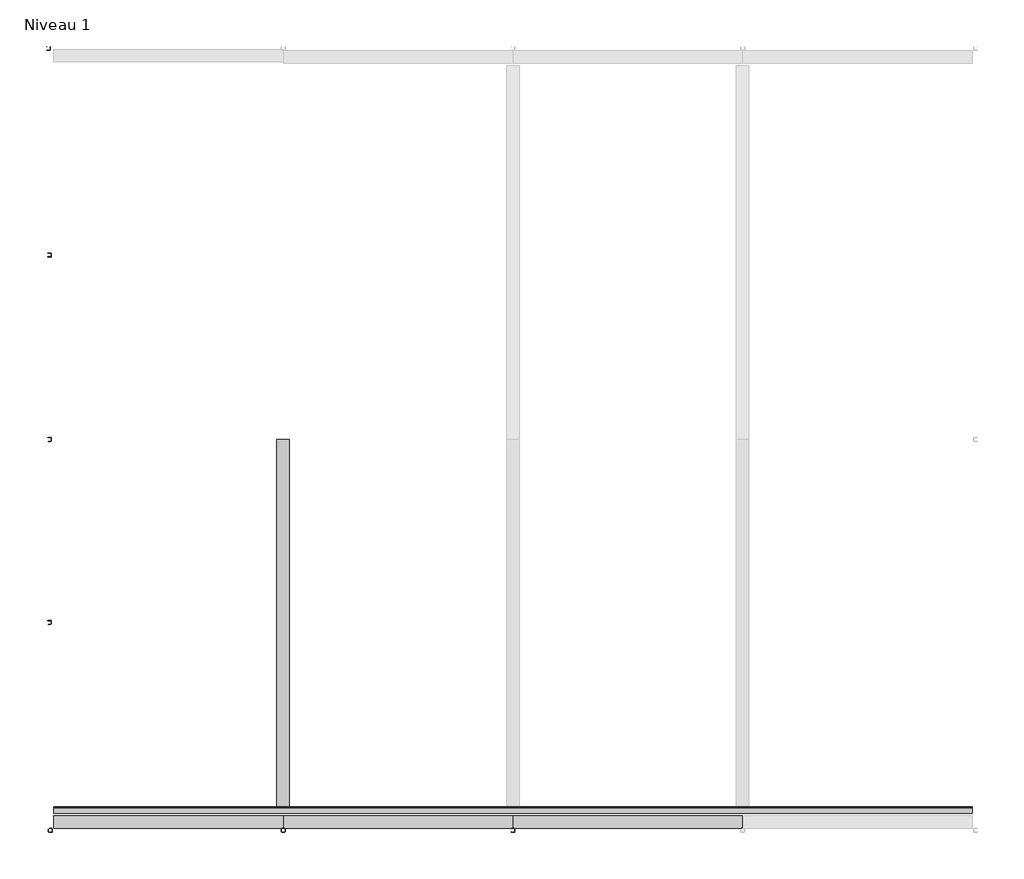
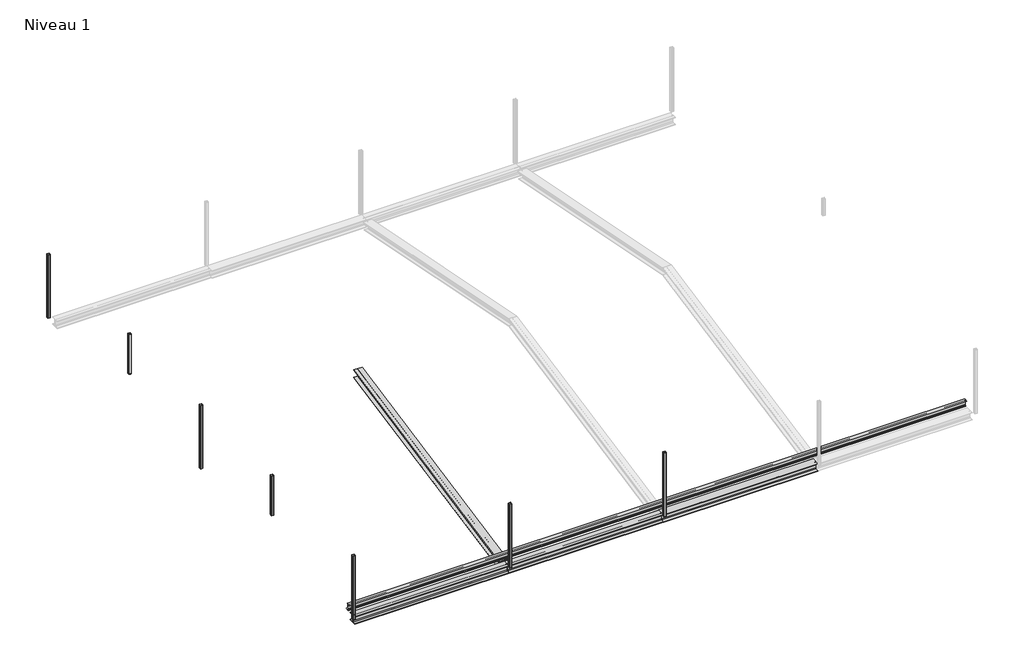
# One storey, part 1 of 2: 7 columns, 5 beams.
"""IFC4 building model written with IfcOpenShell, lengths in millimetres."""

from ifc_helpers import new_model, si_unit, frame, origin, place, context, project, spatial, polyline, circle_curve, ellipse_curve, transform, mapped, element, save
from ifc_brep_helpers import plane_surface, cylinder_surface, revolved_surface, advanced_brep
from components import hea160_fb2920ae, hea160_7110fd5d, ipe_ipe120_91d9e594, poteau_shs_en_10210_2_shs50x5_0b2d64e4

model = new_model("IFC4")

# Units and contexts
model_context = context("Model", 3, world=origin())
ifc_project = project(units=[si_unit("LENGTHUNIT", "METRE", prefix="MILLI")], contexts=[model_context])

# Site, building, storey
site = spatial("IfcSite", under=ifc_project)
building = spatial("IfcBuilding", under=site)
storey = spatial("IfcBuildingStorey", under=building, Name="Niveau 1", Elevation=3000.0)

# Beams
placement = place(None, origin())
element("IfcBeam", 1, ObjectType="HE-A : HEA160", at=placement, inside=storey, context=model_context, shape_type="AdvancedBrep", body=[
    advanced_brep(
    [(-13317.1291149, 1063.1731168, 2856.3099456), (-13317.1291149, 1064.9381621, 2847.4847195), (-13157.1291149, 1064.9381621, 2847.4847195), (-13157.1291149, 1063.1731168, 2856.3099456), (-13219.1291149, 1063.1731168, 2856.3099456), (-13234.1291149, 1060.2313748, 2871.0186558), (-13234.1291149, 1039.8352968, 2972.999046), (-13219.1291149, 1036.8935547, 2987.7077562), (-13157.1291149, 1036.8935547, 2987.7077562), (-13157.1291149, 1035.1285095, 2996.5329822), (-13317.1291149, 1035.1285095, 2996.5329822), (-13317.1291149, 1036.8935547, 2987.7077562), (-13255.1291149, 1036.8935547, 2987.7077562), (-13240.1291149, 1039.8352968, 2972.999046), (-13240.1291149, 1060.2313748, 2871.0186558), (-13255.1291149, 1063.1731168, 2856.3099456), (-13255.1291149, 5917.4635983, 3827.1680419), (-13317.1291149, 5917.4635983, 3827.1680419), (-13240.1291149, 5917.4635983, 3842.4651005), (-13240.1291149, 5917.4635983, 3948.5247063), (-13255.1291149, 5917.4635983, 3963.8217649), (-13317.1291149, 5917.4635983, 3963.8217649), (-13317.1291149, 5917.4635983, 3973.0), (-13157.1291149, 5917.4635983, 3973.0), (-13157.1291149, 5917.4635983, 3963.8217649), (-13219.1291149, 5917.4635983, 3963.8217649), (-13234.1291149, 5917.4635983, 3948.5247063), (-13234.1291149, 5917.4635983, 3842.4651005), (-13219.1291149, 5917.4635983, 3827.1680419), (-13157.1291149, 5917.4635983, 3827.1680419), (-13157.1291149, 5917.4635983, 3817.9898068), (-13317.1291149, 5917.4635983, 3817.9898068)],
    [
        (0, 1),
        (1, 2),
        (2, 3),
        (3, 4),
        (4, 5, circle_curve(frame((-13219.1291149, 1060.2313748, 2871.0186558), z_axis=(0.0, 0.9805806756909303, 0.19611613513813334), x_axis=(1.0, 0.0, 0.0)), 15.0)),
        (5, 6),
        (6, 7, circle_curve(frame((-13219.1291149, 1039.8352968, 2972.999046), z_axis=(0.0, 0.9805806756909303, 0.19611613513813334), x_axis=(1.0, 0.0, 0.0)), 15.0)),
        (7, 8),
        (8, 9),
        (9, 10),
        (10, 11),
        (11, 12),
        (12, 13, circle_curve(frame((-13255.1291149, 1039.8352968, 2972.999046), z_axis=(0.0, 0.9805806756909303, 0.19611613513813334), x_axis=(1.0, 0.0, 0.0)), 15.0)),
        (13, 14),
        (14, 15, circle_curve(frame((-13255.1291149, 1060.2313748, 2871.0186558), z_axis=(0.0, 0.9805806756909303, 0.19611613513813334), x_axis=(1.0, 0.0, 0.0)), 15.0)),
        (15, 0),
        (16, 17),
        (17, 0),
        (15, 16),
        (18, 16, ellipse_curve(frame((-13255.1291149, 5917.4635983, 3842.4651005), z_axis=(0.0, 1.0, 0.0), x_axis=(0.0, 0.0, -0.9999999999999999)), 15.2970585, 15.0)),
        (14, 18),
        (19, 18),
        (13, 19),
        (20, 19, ellipse_curve(frame((-13255.1291149, 5917.4635983, 3948.5247063), z_axis=(0.0, 1.0, 0.0), x_axis=(0.0, 0.0, -0.9999999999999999)), 15.2970585, 15.0)),
        (12, 20),
        (21, 20),
        (11, 21),
        (22, 21),
        (10, 22),
        (23, 22),
        (9, 23),
        (24, 23),
        (8, 24),
        (25, 24),
        (7, 25),
        (26, 25, ellipse_curve(frame((-13219.1291149, 5917.4635983, 3948.5247063), z_axis=(0.0, 1.0, 0.0), x_axis=(0.0, 0.0, -0.9999999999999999)), 15.2970585, 15.0)),
        (6, 26),
        (27, 26),
        (5, 27),
        (28, 27, ellipse_curve(frame((-13219.1291149, 5917.4635983, 3842.4651005), z_axis=(0.0, 1.0, 0.0), x_axis=(0.0, 0.0, -0.9999999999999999)), 15.2970585, 15.0)),
        (4, 28),
        (29, 28),
        (3, 29),
        (30, 29),
        (2, 30),
        (31, 30),
        (1, 31),
        (17, 31),
    ],
    [
        plane_surface(frame((-13237.1291149, 1050.0333358, 2922.0088509), z_axis=(0.0, -0.9805806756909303, -0.19611613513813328), x_axis=(0.0, -0.19611613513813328, 0.9805806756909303))),
        plane_surface(frame((-13317.1291149, 5941.967624, 3832.068847), z_axis=(0.0, -0.19611613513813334, 0.9805806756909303), x_axis=(0.0, -0.9805806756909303, -0.19611613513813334))),
        revolved_surface(polyline([(-13240.1291149, 1060.2313747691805, 2871.0186557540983), (-13240.1291149, 5920.405340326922, 3843.0534488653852)]), (-13255.1291149, 5939.025882, 3846.7775572), (0.0, -0.9805806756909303, -0.19611613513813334)),
        plane_surface(frame((-13240.1291149, 5939.025882, 3846.7775572), z_axis=(-1.0, 0.0, 0.0), x_axis=(0.0, -0.9805806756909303, -0.19611613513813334))),
        revolved_surface(polyline([(-13240.1291149, 1039.835296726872, 2972.9990460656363), (-13240.1291149, 5920.405340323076, 3949.1130547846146)]), (-13255.1291149, 5918.6298039, 3948.7579475), (0.0, -0.9805806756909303, -0.19611613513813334)),
        plane_surface(frame((-13255.1291149, 5915.6880619, 3963.4666576), z_axis=(0.0, 0.19611613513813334, -0.9805806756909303), x_axis=(0.0, -0.9805806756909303, -0.19611613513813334))),
        plane_surface(frame((-13317.1291149, 5915.6880619, 3963.4666576), z_axis=(-1.0, 0.0, 0.0), x_axis=(0.0, -0.9805806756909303, -0.19611613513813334))),
        plane_surface(frame((-13317.1291149, 5913.9230167, 3972.2918837), z_axis=(0.0, -0.19611613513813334, 0.9805806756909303), x_axis=(0.0, -0.9805806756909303, -0.19611613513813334))),
        plane_surface(frame((-13157.1291149, 5913.9230167, 3972.2918837), z_axis=(1.0, 0.0, 0.0), x_axis=(0.0, -0.9805806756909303, -0.19611613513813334))),
        plane_surface(frame((-13157.1291149, 5915.6880619, 3963.4666576), z_axis=(0.0, 0.19611613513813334, -0.9805806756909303), x_axis=(0.0, -0.9805806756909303, -0.19611613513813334))),
        revolved_surface(polyline([(-13204.1291149, 1039.835296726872, 2972.9990460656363), (-13204.1291149, 5920.405340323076, 3949.1130547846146)]), (-13219.1291149, 5918.6298039, 3948.7579475), (0.0, -0.9805806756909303, -0.19611613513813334)),
        plane_surface(frame((-13234.1291149, 5918.6298039, 3948.7579475), z_axis=(1.0, 0.0, 0.0), x_axis=(0.0, -0.9805806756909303, -0.19611613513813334))),
        revolved_surface(polyline([(-13204.1291149, 1060.2313747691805, 2871.0186557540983), (-13204.1291149, 5920.405340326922, 3843.0534488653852)]), (-13219.1291149, 5939.025882, 3846.7775572), (0.0, -0.9805806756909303, -0.19611613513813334)),
        plane_surface(frame((-13219.1291149, 5941.967624, 3832.068847), z_axis=(0.0, -0.19611613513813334, 0.9805806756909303), x_axis=(0.0, -0.9805806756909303, -0.19611613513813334))),
        plane_surface(frame((-13157.1291149, 5941.967624, 3832.068847), z_axis=(1.0, 0.0, 0.0), x_axis=(0.0, -0.9805806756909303, -0.19611613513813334))),
        plane_surface(frame((-13157.1291149, 5943.7326692, 3823.243621), z_axis=(0.0, 0.19611613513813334, -0.9805806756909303), x_axis=(0.0, -0.9805806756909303, -0.19611613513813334))),
        plane_surface(frame((-13317.1291149, 5943.7326692, 3823.243621), z_axis=(-1.0, 0.0, 0.0), x_axis=(0.0, -0.9805806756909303, -0.19611613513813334))),
        plane_surface(frame((-13237.1291149, 5917.4635983, 3817.9898068), z_axis=(0.0, 1.0, 0.0), x_axis=(0.0, 0.0, -1.0))),
    ],
    [
        (0, [[1, 2, 3, 4, 5, 6, 7, 8, 9, 10, 11, 12, 13, 14, 15, 16]]),
        (1, [[17, 18, -16, 19]]),
        (2, [[20, -19, -15, 21]]),
        (3, [[22, -21, -14, 23]]),
        (4, [[24, -23, -13, 25]]),
        (5, [[26, -25, -12, 27]]),
        (6, [[28, -27, -11, 29]]),
        (7, [[30, -29, -10, 31]]),
        (8, [[32, -31, -9, 33]]),
        (9, [[34, -33, -8, 35]]),
        (10, [[36, -35, -7, 37]]),
        (11, [[38, -37, -6, 39]]),
        (12, [[40, -39, -5, 41]]),
        (13, [[42, -41, -4, 43]]),
        (14, [[44, -43, -3, 45]]),
        (15, [[46, -45, -2, 47]]),
        (16, [[48, -47, -1, -18]]),
        (17, [[-17, -20, -22, -24, -26, -28, -30, -32, -34, -36, -38, -40, -42, -44, -46, -48]]),
    ],
),
])
hea160_shape = hea160_fb2920ae(model_context)
element("IfcBeam", 2, ObjectType="HE-A : HEA160", at=placement, inside=storey, context=model_context, shape_type="MappedRepresentation", body=[
    mapped(hea160_shape, transform((-14709.7291149, 917.4635983, 2924.0), x_axis=(1.0, 0.0, 0.0), y_axis=(0.0, 1.0, 0.0), z_axis=(0.0, 0.0, 1.0))),
])
element("IfcBeam", 3, ObjectType="HE-A : HEA160", at=placement, inside=storey, context=model_context, shape_type="MappedRepresentation", body=[
    mapped(hea160_shape, transform((-8709.7291149, 917.4635983, 2924.0), x_axis=(1.0, 0.0, 0.0), y_axis=(0.0, 1.0, 0.0), z_axis=(0.0, 0.0, 1.0))),
])
hea160_2_shape = hea160_7110fd5d(model_context)
element("IfcBeam", 4, ObjectType="HE-A : HEA160", at=placement, inside=storey, context=model_context, shape_type="MappedRepresentation", body=[
    mapped(hea160_2_shape, transform((-11713.0291149, 917.4635983, 2924.0), x_axis=(1.0, 0.0, 0.0), y_axis=(0.0, 1.0, 0.0), z_axis=(0.0, 0.0, 1.0))),
])
ipe_ipe120_shape = ipe_ipe120_91d9e594(model_context)
element("IfcBeam", 5, ObjectType="IPE : IPE120", at=placement, inside=storey, context=model_context, shape_type="MappedRepresentation", body=[
    mapped(ipe_ipe120_shape, transform((-10233.8291149, 1074.3756411, 3065.5706427), x_axis=(1.0, 0.0, 0.0), y_axis=(0.0, 0.9805806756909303, 0.19611613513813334), z_axis=(0.0, -0.19611613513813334, 0.9805806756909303))),
])

# Columns
element("IfcColumn", 6, ObjectType="Poteau SHS (EN 10210-2) : SHS50x5", at=placement, inside=storey, context=model_context, shape_type="AdvancedBrep", body=[
    advanced_brep(
    [(-16306.3291149, 3552.4990874, 3490.0070978), (-16271.3291149, 3552.4990874, 3490.0070978), (-16264.6395762, 3548.390263, 3490.0070978), (-16313.0186536, 3548.390263, 3490.0070978), (-16271.3291149, 3552.4990874, 3490.8288627), (-16306.3291149, 3552.4990874, 3490.8288627)],
    [
        (0, 1),
        (1, 2, circle_curve(frame((-16271.3291149, 3544.9990874, 3490.0070978), z_axis=(0.0, 0.0, -1.0), x_axis=(1.0, 0.0, 0.0)), 7.5)),
        (2, 3),
        (3, 0, circle_curve(frame((-16306.3291149, 3544.9990874, 3490.0070978), z_axis=(0.0, 0.0, -1.0), x_axis=(1.0, 0.0, 0.0)), 7.5)),
        (1, 4),
        (4, 2, ellipse_curve(frame((-16271.3291149, 3544.9990874, 3489.3288627), z_axis=(0.0, 0.19611613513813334, -0.9805806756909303), x_axis=(0.0, 0.9805806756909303, 0.19611613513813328)), 7.6485293, 7.5)),
        (3, 5, ellipse_curve(frame((-16306.3291149, 3544.9990874, 3489.3288627), z_axis=(0.0, 0.19611613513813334, -0.9805806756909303), x_axis=(0.0, 0.9805806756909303, 0.19611613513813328)), 7.6485293, 7.5)),
        (5, 0),
        (4, 5),
    ],
    [
        plane_surface(frame((-16306.3291149, 3552.4990874, 3490.0070978), z_axis=(0.0, 0.0, -1.0), x_axis=(1.0, 0.0, 0.0))),
        cylinder_surface(frame((-16271.3291149, 3544.9990874, 3490.0070978), z_axis=(0.0, 0.0, 1.0), x_axis=(1.0, 0.0, 0.0)), 7.5),
        cylinder_surface(frame((-16306.3291149, 3544.9990874, 3490.0070978), z_axis=(0.0, 0.0, 1.0), x_axis=(1.0, 0.0, 0.0)), 7.5),
        plane_surface(frame((-16251.8291149, 5851.9369047, 3950.7164261), z_axis=(0.0, -0.19611613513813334, 0.9805806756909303), x_axis=(0.0, -0.9805806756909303, -0.19611613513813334))),
        plane_surface(frame((-16271.3291149, 3552.4990874, 4300.0), z_axis=(0.0, 1.0, 0.0), x_axis=(0.0, 0.0, -1.0))),
    ],
    [
        (0, [[1, 2, 3, 4]]),
        (1, [[-2, 5, 6]]),
        (2, [[-4, 7, 8]]),
        (3, [[-3, -6, 9, -7]]),
        (4, [[-1, -8, -9, -5]]),
    ],
),
    advanced_brep(
    [(-16263.8291149, 3544.9990874, 4300.0), (-16263.8291149, 3509.9990874, 4300.0), (-16263.8291149, 3509.9990874, 3491.5070978), (-16263.8291149, 3544.9990874, 3498.5070978), (-16271.3291149, 3502.4990874, 4300.0), (-16271.3291149, 3502.4990874, 3490.0070978), (-16306.3291149, 3502.4990874, 4300.0), (-16306.3291149, 3502.4990874, 3490.0070978), (-16313.8291149, 3509.9990874, 4300.0), (-16313.8291149, 3509.9990874, 3491.5070978), (-16313.8291149, 3544.9990874, 4300.0), (-16313.8291149, 3544.9990874, 3498.5070978), (-16306.3291149, 3552.4990874, 4300.0), (-16271.3291149, 3552.4990874, 4300.0), (-16271.3291149, 3552.4990874, 3500.0070978), (-16306.3291149, 3552.4990874, 3500.0070978), (-16273.8291149, 3547.4990874, 4300.0), (-16303.8291149, 3547.4990874, 4300.0), (-16303.8291149, 3547.4990874, 3499.0070978), (-16273.8291149, 3547.4990874, 3499.0070978), (-16308.8291149, 3542.4990874, 4300.0), (-16308.8291149, 3542.4990874, 3498.0070978), (-16308.8291149, 3512.4990874, 4300.0), (-16308.8291149, 3512.4990874, 3492.0070978), (-16303.8291149, 3507.4990874, 4300.0), (-16303.8291149, 3507.4990874, 3491.0070978), (-16273.8291149, 3507.4990874, 4300.0), (-16273.8291149, 3507.4990874, 3491.0070978), (-16268.8291149, 3512.4990874, 4300.0), (-16268.8291149, 3512.4990874, 3492.0070978), (-16268.8291149, 3542.4990874, 4300.0), (-16268.8291149, 3542.4990874, 3498.0070978)],
    [
        (0, 1),
        (1, 2),
        (2, 3),
        (3, 0),
        (1, 4, circle_curve(frame((-16271.3291149, 3509.9990874, 4300.0), z_axis=(0.0, 0.0, -1.0), x_axis=(1.0, 0.0, 0.0)), 7.5)),
        (4, 5),
        (5, 2, ellipse_curve(frame((-16271.3291149, 3509.9990874, 3491.5070978), z_axis=(0.0, -0.19611613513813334, 0.9805806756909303), x_axis=(0.0, 0.9805806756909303, 0.19611613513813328)), 7.6485293, 7.5)),
        (4, 6),
        (6, 7),
        (7, 5),
        (6, 8, circle_curve(frame((-16306.3291149, 3509.9990874, 4300.0), z_axis=(0.0, 0.0, -1.0), x_axis=(1.0, 0.0, 0.0)), 7.5)),
        (8, 9),
        (9, 7, ellipse_curve(frame((-16306.3291149, 3509.9990874, 3491.5070978), z_axis=(0.0, -0.19611613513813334, 0.9805806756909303), x_axis=(0.0, 0.9805806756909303, 0.19611613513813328)), 7.6485293, 7.5)),
        (8, 10),
        (10, 11),
        (11, 9),
        (12, 13),
        (13, 14),
        (14, 15),
        (15, 12),
        (16, 17),
        (17, 18),
        (18, 19),
        (19, 16),
        (17, 20, circle_curve(frame((-16303.8291149, 3542.4990874, 4300.0), z_axis=(0.0, 0.0, 1.0), x_axis=(1.0, 0.0, 0.0)), 5.0)),
        (20, 21),
        (21, 18, ellipse_curve(frame((-16303.8291149, 3542.4990874, 3498.0070978), z_axis=(0.0, 0.19611613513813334, -0.9805806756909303), x_axis=(0.0, -0.9805806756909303, -0.19611613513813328)), 5.0990195, 5.0)),
        (20, 22),
        (22, 23),
        (23, 21),
        (22, 24, circle_curve(frame((-16303.8291149, 3512.4990874, 4300.0), z_axis=(0.0, 0.0, 1.0), x_axis=(1.0, 0.0, 0.0)), 5.0)),
        (24, 25),
        (25, 23, ellipse_curve(frame((-16303.8291149, 3512.4990874, 3492.0070978), z_axis=(0.0, 0.19611613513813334, -0.9805806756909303), x_axis=(0.0, -0.9805806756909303, -0.19611613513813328)), 5.0990195, 5.0)),
        (24, 26),
        (26, 27),
        (27, 25),
        (26, 28, circle_curve(frame((-16273.8291149, 3512.4990874, 4300.0), z_axis=(0.0, 0.0, 1.0), x_axis=(1.0, 0.0, 0.0)), 5.0)),
        (28, 29),
        (29, 27, ellipse_curve(frame((-16273.8291149, 3512.4990874, 3492.0070978), z_axis=(0.0, 0.19611613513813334, -0.9805806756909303), x_axis=(0.0, -0.9805806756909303, -0.19611613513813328)), 5.0990195, 5.0)),
        (28, 30),
        (30, 31),
        (31, 29),
        (30, 16, circle_curve(frame((-16273.8291149, 3542.4990874, 4300.0), z_axis=(0.0, 0.0, 1.0), x_axis=(1.0, 0.0, 0.0)), 5.0)),
        (19, 31, ellipse_curve(frame((-16273.8291149, 3542.4990874, 3498.0070978), z_axis=(0.0, 0.19611613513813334, -0.9805806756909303), x_axis=(0.0, -0.9805806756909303, -0.19611613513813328)), 5.0990195, 5.0)),
        (0, 13, circle_curve(frame((-16271.3291149, 3544.9990874, 4300.0), z_axis=(0.0, 0.0, 1.0), x_axis=(1.0, 0.0, 0.0)), 7.5)),
        (12, 10, circle_curve(frame((-16306.3291149, 3544.9990874, 4300.0), z_axis=(0.0, 0.0, 1.0), x_axis=(1.0, 0.0, 0.0)), 7.5)),
        (14, 3, ellipse_curve(frame((-16271.3291149, 3544.9990874, 3498.5070978), z_axis=(0.0, 0.19611613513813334, -0.9805806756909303), x_axis=(0.0, 0.9805806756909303, 0.19611613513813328)), 7.6485293, 7.5)),
        (11, 15, ellipse_curve(frame((-16306.3291149, 3544.9990874, 3498.5070978), z_axis=(0.0, 0.19611613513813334, -0.9805806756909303), x_axis=(0.0, 0.9805806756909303, 0.19611613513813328)), 7.6485293, 7.5)),
    ],
    [
        plane_surface(frame((-16263.8291149, 3509.9990874, 4300.0), z_axis=(1.0, 0.0, 0.0), x_axis=(0.0, 0.0, -1.0))),
        cylinder_surface(frame((-16271.3291149, 3509.9990874, 3490.0070978), z_axis=(0.0, 0.0, 1.0), x_axis=(1.0, 0.0, 0.0)), 7.5),
        plane_surface(frame((-16306.3291149, 3502.4990874, 4300.0), z_axis=(0.0, -1.0, 0.0), x_axis=(0.0, 0.0, -1.0))),
        cylinder_surface(frame((-16306.3291149, 3509.9990874, 3490.0070978), z_axis=(0.0, 0.0, 1.0), x_axis=(1.0, 0.0, 0.0)), 7.5),
        plane_surface(frame((-16313.8291149, 3544.9990874, 4300.0), z_axis=(-1.0, 0.0, 0.0), x_axis=(0.0, 0.0, -1.0))),
        plane_surface(frame((-16271.3291149, 3552.4990874, 4300.0), z_axis=(0.0, 1.0, 0.0), x_axis=(0.0, 0.0, -1.0))),
        plane_surface(frame((-16303.8291149, 3547.4990874, 4300.0), z_axis=(0.0, -1.0, 0.0), x_axis=(0.0, 0.0, -1.0))),
        revolved_surface(polyline([(-16298.8291149, 3542.4990874, 3497.007097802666), (-16298.8291149, 3542.4990874, 4300.0)]), (-16303.8291149, 3542.4990874, 3490.0070978), (0.0, 0.0, -1.0)),
        plane_surface(frame((-16308.8291149, 3512.4990874, 4300.0), z_axis=(1.0, 0.0, 0.0), x_axis=(0.0, 0.0, -1.0))),
        revolved_surface(polyline([(-16298.8291149, 3512.4990874, 3491.0070978), (-16298.8291149, 3512.4990874, 4300.0)]), (-16303.8291149, 3512.4990874, 3490.0070978), (0.0, 0.0, -1.0)),
        plane_surface(frame((-16273.8291149, 3507.4990874, 4300.0), z_axis=(0.0, 1.0, 0.0), x_axis=(0.0, 0.0, -1.0))),
        revolved_surface(polyline([(-16268.8291149, 3512.4990874, 3491.0070978), (-16268.8291149, 3512.4990874, 4300.0)]), (-16273.8291149, 3512.4990874, 3490.0070978), (0.0, 0.0, -1.0)),
        plane_surface(frame((-16268.8291149, 3542.4990874, 4300.0), z_axis=(-1.0, 0.0, 0.0), x_axis=(0.0, 0.0, -1.0))),
        revolved_surface(polyline([(-16268.8291149, 3542.4990874, 3497.007097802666), (-16268.8291149, 3542.4990874, 4300.0)]), (-16273.8291149, 3542.4990874, 3490.0070978), (0.0, 0.0, -1.0)),
        plane_surface(frame((-16306.3291149, 3552.4990874, 4300.0), z_axis=(0.0, 0.0, 1.0), x_axis=(-1.0, 0.0, 0.0))),
        plane_surface(frame((-16313.8291149, 5850.1718594, 3959.5416522), z_axis=(0.0, 0.19611613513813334, -0.9805806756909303), x_axis=(0.0, -0.9805806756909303, -0.19611613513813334))),
        cylinder_surface(frame((-16271.3291149, 3544.9990874, 3490.0070978), z_axis=(0.0, 0.0, 1.0), x_axis=(1.0, 0.0, 0.0)), 7.5),
        cylinder_surface(frame((-16306.3291149, 3544.9990874, 3490.0070978), z_axis=(0.0, 0.0, 1.0), x_axis=(1.0, 0.0, 0.0)), 7.5),
    ],
    [
        (0, [[1, 2, 3, 4]]),
        (1, [[5, 6, 7, -2]]),
        (2, [[-6, 8, 9, 10]]),
        (3, [[-9, 11, 12, 13]]),
        (4, [[14, 15, 16, -12]]),
        (5, [[17, 18, 19, 20]]),
        (6, [[21, 22, 23, 24]]),
        (7, [[25, 26, 27, -22]]),
        (8, [[28, 29, 30, -26]]),
        (9, [[31, 32, 33, -29]]),
        (10, [[34, 35, 36, -32]]),
        (11, [[37, 38, 39, -35]]),
        (12, [[40, 41, 42, -38]]),
        (13, [[43, -24, 44, -41]]),
        (14, [[45, -17, 46, -14, -11, -8, -5, -1], [-21, -43, -40, -37, -34, -31, -28, -25]]),
        (15, [[47, -3, -7, -10, -13, -16, 48, -19], [-23, -27, -30, -33, -36, -39, -42, -44]]),
        (16, [[-45, -4, -47, -18]]),
        (17, [[-46, -20, -48, -15]]),
    ],
),
])
element("IfcColumn", 7, ObjectType="Poteau SHS (EN 10210-2) : SHS50x5", at=placement, inside=storey, context=model_context, shape_type="AdvancedBrep", body=[
    advanced_brep(
    [(-16271.3291149, 8302.1980129, 3486.0531171), (-16306.3291149, 8302.1980129, 3486.0531171), (-16313.0186536, 8306.3068373, 3486.0531171), (-16264.6395762, 8306.3068373, 3486.0531171), (-16271.3291149, 8302.1980129, 3486.874882), (-16306.3291149, 8302.1980129, 3486.874882)],
    [
        (0, 1),
        (1, 2, circle_curve(frame((-16306.3291149, 8309.6980129, 3486.0531171), z_axis=(0.0, 0.0, -1.0), x_axis=(1.0, 0.0, 0.0)), 7.5)),
        (2, 3),
        (3, 0, circle_curve(frame((-16271.3291149, 8309.6980129, 3486.0531171), z_axis=(0.0, 0.0, -1.0), x_axis=(1.0, 0.0, 0.0)), 7.5)),
        (3, 4, ellipse_curve(frame((-16271.3291149, 8309.6980129, 3485.374882), z_axis=(0.0, -0.19611613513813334, -0.9805806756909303), x_axis=(0.0, -0.9805806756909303, 0.19611613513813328)), 7.6485293, 7.5)),
        (4, 0),
        (1, 5),
        (5, 2, ellipse_curve(frame((-16306.3291149, 8309.6980129, 3485.374882), z_axis=(0.0, -0.19611613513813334, -0.9805806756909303), x_axis=(0.0, -0.9805806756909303, 0.19611613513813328)), 7.6485293, 7.5)),
        (5, 4),
    ],
    [
        plane_surface(frame((-16306.3291149, 8352.1980129, 3486.0531171), z_axis=(0.0, 0.0, -1.0), x_axis=(1.0, 0.0, 0.0))),
        cylinder_surface(frame((-16271.3291149, 8309.6980129, 3486.0531171), z_axis=(0.0, 0.0, 1.0), x_axis=(1.0, 0.0, 0.0)), 7.5),
        cylinder_surface(frame((-16306.3291149, 8309.6980129, 3486.0531171), z_axis=(0.0, 0.0, 1.0), x_axis=(1.0, 0.0, 0.0)), 7.5),
        plane_surface(frame((-16251.8291149, 5982.990292, 3950.7164261), z_axis=(0.0, 0.19611613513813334, 0.9805806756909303), x_axis=(0.0, 0.9805806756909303, -0.19611613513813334))),
        plane_surface(frame((-16306.3291149, 8302.1980129, 4300.0), z_axis=(0.0, -1.0, 0.0), x_axis=(0.0, 0.0, -1.0))),
    ],
    [
        (0, [[1, 2, 3, 4]]),
        (1, [[-4, 5, 6]]),
        (2, [[-2, 7, 8]]),
        (3, [[-3, -8, 9, -5]]),
        (4, [[-1, -6, -9, -7]]),
    ],
),
    advanced_brep(
    [(-16271.3291149, 8352.1980129, 4300.0), (-16263.8291149, 8344.6980129, 4300.0), (-16263.8291149, 8344.6980129, 3487.5531171), (-16271.3291149, 8352.1980129, 3486.0531171), (-16263.8291149, 8309.6980129, 4300.0), (-16263.8291149, 8309.6980129, 3494.5531171), (-16271.3291149, 8302.1980129, 4300.0), (-16306.3291149, 8302.1980129, 4300.0), (-16306.3291149, 8302.1980129, 3496.0531171), (-16271.3291149, 8302.1980129, 3496.0531171), (-16313.8291149, 8309.6980129, 4300.0), (-16313.8291149, 8344.6980129, 4300.0), (-16313.8291149, 8344.6980129, 3487.5531171), (-16313.8291149, 8309.6980129, 3494.5531171), (-16306.3291149, 8352.1980129, 4300.0), (-16306.3291149, 8352.1980129, 3486.0531171), (-16273.8291149, 8347.1980129, 4300.0), (-16303.8291149, 8347.1980129, 4300.0), (-16303.8291149, 8347.1980129, 3487.0531171), (-16273.8291149, 8347.1980129, 3487.0531171), (-16308.8291149, 8342.1980129, 4300.0), (-16308.8291149, 8342.1980129, 3488.0531171), (-16308.8291149, 8312.1980129, 4300.0), (-16308.8291149, 8312.1980129, 3494.0531171), (-16303.8291149, 8307.1980129, 4300.0), (-16303.8291149, 8307.1980129, 3495.0531171), (-16273.8291149, 8307.1980129, 4300.0), (-16273.8291149, 8307.1980129, 3495.0531171), (-16268.8291149, 8312.1980129, 4300.0), (-16268.8291149, 8312.1980129, 3494.0531171), (-16268.8291149, 8342.1980129, 4300.0), (-16268.8291149, 8342.1980129, 3488.0531171)],
    [
        (0, 1, circle_curve(frame((-16271.3291149, 8344.6980129, 4300.0), z_axis=(0.0, 0.0, -1.0), x_axis=(1.0, 0.0, 0.0)), 7.5)),
        (1, 2),
        (2, 3, ellipse_curve(frame((-16271.3291149, 8344.6980129, 3487.5531171), z_axis=(0.0, 0.19611613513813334, 0.9805806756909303), x_axis=(0.0, -0.9805806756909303, 0.19611613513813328)), 7.6485293, 7.5)),
        (3, 0),
        (1, 4),
        (4, 5),
        (5, 2),
        (6, 7),
        (7, 8),
        (8, 9),
        (9, 6),
        (10, 11),
        (11, 12),
        (12, 13),
        (13, 10),
        (11, 14, circle_curve(frame((-16306.3291149, 8344.6980129, 4300.0), z_axis=(0.0, 0.0, -1.0), x_axis=(1.0, 0.0, 0.0)), 7.5)),
        (14, 15),
        (15, 12, ellipse_curve(frame((-16306.3291149, 8344.6980129, 3487.5531171), z_axis=(0.0, 0.19611613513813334, 0.9805806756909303), x_axis=(0.0, -0.9805806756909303, 0.19611613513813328)), 7.6485293, 7.5)),
        (3, 15),
        (14, 0),
        (16, 17),
        (17, 18),
        (18, 19),
        (19, 16),
        (17, 20, circle_curve(frame((-16303.8291149, 8342.1980129, 4300.0), z_axis=(0.0, 0.0, 1.0), x_axis=(1.0, 0.0, 0.0)), 5.0)),
        (20, 21),
        (21, 18, ellipse_curve(frame((-16303.8291149, 8342.1980129, 3488.0531171), z_axis=(0.0, -0.19611613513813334, -0.9805806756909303), x_axis=(0.0, 0.9805806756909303, -0.19611613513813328)), 5.0990195, 5.0)),
        (20, 22),
        (22, 23),
        (23, 21),
        (22, 24, circle_curve(frame((-16303.8291149, 8312.1980129, 4300.0), z_axis=(0.0, 0.0, 1.0), x_axis=(1.0, 0.0, 0.0)), 5.0)),
        (24, 25),
        (25, 23, ellipse_curve(frame((-16303.8291149, 8312.1980129, 3494.0531171), z_axis=(0.0, -0.19611613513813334, -0.9805806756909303), x_axis=(0.0, 0.9805806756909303, -0.19611613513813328)), 5.0990195, 5.0)),
        (24, 26),
        (26, 27),
        (27, 25),
        (26, 28, circle_curve(frame((-16273.8291149, 8312.1980129, 4300.0), z_axis=(0.0, 0.0, 1.0), x_axis=(1.0, 0.0, 0.0)), 5.0)),
        (28, 29),
        (29, 27, ellipse_curve(frame((-16273.8291149, 8312.1980129, 3494.0531171), z_axis=(0.0, -0.19611613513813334, -0.9805806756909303), x_axis=(0.0, 0.9805806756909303, -0.19611613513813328)), 5.0990195, 5.0)),
        (28, 30),
        (30, 31),
        (31, 29),
        (30, 16, circle_curve(frame((-16273.8291149, 8342.1980129, 4300.0), z_axis=(0.0, 0.0, 1.0), x_axis=(1.0, 0.0, 0.0)), 5.0)),
        (19, 31, ellipse_curve(frame((-16273.8291149, 8342.1980129, 3488.0531171), z_axis=(0.0, -0.19611613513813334, -0.9805806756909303), x_axis=(0.0, 0.9805806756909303, -0.19611613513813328)), 5.0990195, 5.0)),
        (10, 7, circle_curve(frame((-16306.3291149, 8309.6980129, 4300.0), z_axis=(0.0, 0.0, 1.0), x_axis=(1.0, 0.0, 0.0)), 7.5)),
        (6, 4, circle_curve(frame((-16271.3291149, 8309.6980129, 4300.0), z_axis=(0.0, 0.0, 1.0), x_axis=(1.0, 0.0, 0.0)), 7.5)),
        (5, 9, ellipse_curve(frame((-16271.3291149, 8309.6980129, 3494.5531171), z_axis=(0.0, -0.19611613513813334, -0.9805806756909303), x_axis=(0.0, -0.9805806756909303, 0.19611613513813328)), 7.6485293, 7.5)),
        (8, 13, ellipse_curve(frame((-16306.3291149, 8309.6980129, 3494.5531171), z_axis=(0.0, -0.19611613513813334, -0.9805806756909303), x_axis=(0.0, -0.9805806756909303, 0.19611613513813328)), 7.6485293, 7.5)),
    ],
    [
        cylinder_surface(frame((-16271.3291149, 8344.6980129, 3486.0531171), z_axis=(0.0, 0.0, 1.0), x_axis=(1.0, 0.0, 0.0)), 7.5),
        plane_surface(frame((-16263.8291149, 8309.6980129, 4300.0), z_axis=(1.0, 0.0, 0.0), x_axis=(0.0, 0.0, -1.0))),
        plane_surface(frame((-16306.3291149, 8302.1980129, 4300.0), z_axis=(0.0, -1.0, 0.0), x_axis=(0.0, 0.0, -1.0))),
        plane_surface(frame((-16313.8291149, 8344.6980129, 4300.0), z_axis=(-1.0, 0.0, 0.0), x_axis=(0.0, 0.0, -1.0))),
        cylinder_surface(frame((-16306.3291149, 8344.6980129, 3486.0531171), z_axis=(0.0, 0.0, 1.0), x_axis=(1.0, 0.0, 0.0)), 7.5),
        plane_surface(frame((-16271.3291149, 8352.1980129, 4300.0), z_axis=(0.0, 1.0, 0.0), x_axis=(0.0, 0.0, -1.0))),
        plane_surface(frame((-16303.8291149, 8347.1980129, 4300.0), z_axis=(0.0, -1.0, 0.0), x_axis=(0.0, 0.0, -1.0))),
        revolved_surface(polyline([(-16298.8291149, 8342.1980129, 3487.0531171), (-16298.8291149, 8342.1980129, 4300.0)]), (-16303.8291149, 8342.1980129, 3486.0531171), (0.0, 0.0, -1.0)),
        plane_surface(frame((-16308.8291149, 8312.1980129, 4300.0), z_axis=(1.0, 0.0, 0.0), x_axis=(0.0, 0.0, -1.0))),
        revolved_surface(polyline([(-16298.8291149, 8312.1980129, 3493.053117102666), (-16298.8291149, 8312.1980129, 4300.0)]), (-16303.8291149, 8312.1980129, 3486.0531171), (0.0, 0.0, -1.0)),
        plane_surface(frame((-16273.8291149, 8307.1980129, 4300.0), z_axis=(0.0, 1.0, 0.0), x_axis=(0.0, 0.0, -1.0))),
        revolved_surface(polyline([(-16268.8291149, 8312.1980129, 3493.053117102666), (-16268.8291149, 8312.1980129, 4300.0)]), (-16273.8291149, 8312.1980129, 3486.0531171), (0.0, 0.0, -1.0)),
        plane_surface(frame((-16268.8291149, 8342.1980129, 4300.0), z_axis=(-1.0, 0.0, 0.0), x_axis=(0.0, 0.0, -1.0))),
        revolved_surface(polyline([(-16268.8291149, 8342.1980129, 3487.0531171), (-16268.8291149, 8342.1980129, 4300.0)]), (-16273.8291149, 8342.1980129, 3486.0531171), (0.0, 0.0, -1.0)),
        plane_surface(frame((-16306.3291149, 8352.1980129, 4300.0), z_axis=(0.0, 0.0, 1.0), x_axis=(-1.0, 0.0, 0.0))),
        plane_surface(frame((-16313.8291149, 5984.7553372, 3959.5416522), z_axis=(0.0, -0.19611613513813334, -0.9805806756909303), x_axis=(0.0, 0.9805806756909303, -0.19611613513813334))),
        cylinder_surface(frame((-16271.3291149, 8309.6980129, 3486.0531171), z_axis=(0.0, 0.0, 1.0), x_axis=(1.0, 0.0, 0.0)), 7.5),
        cylinder_surface(frame((-16306.3291149, 8309.6980129, 3486.0531171), z_axis=(0.0, 0.0, 1.0), x_axis=(1.0, 0.0, 0.0)), 7.5),
    ],
    [
        (0, [[1, 2, 3, 4]]),
        (1, [[5, 6, 7, -2]]),
        (2, [[8, 9, 10, 11]]),
        (3, [[12, 13, 14, 15]]),
        (4, [[16, 17, 18, -13]]),
        (5, [[-4, 19, -17, 20]]),
        (6, [[21, 22, 23, 24]]),
        (7, [[25, 26, 27, -22]]),
        (8, [[28, 29, 30, -26]]),
        (9, [[31, 32, 33, -29]]),
        (10, [[34, 35, 36, -32]]),
        (11, [[37, 38, 39, -35]]),
        (12, [[40, 41, 42, -38]]),
        (13, [[43, -24, 44, -41]]),
        (14, [[-1, -20, -16, -12, 45, -8, 46, -5], [-21, -43, -40, -37, -34, -31, -28, -25]]),
        (15, [[-3, -7, 47, -10, 48, -14, -18, -19], [-23, -27, -30, -33, -36, -39, -42, -44]]),
        (16, [[-46, -11, -47, -6]]),
        (17, [[-45, -15, -48, -9]]),
    ],
),
])
poteau_shs_en_10210_2_shs50x5_shape = poteau_shs_en_10210_2_shs50x5_0b2d64e4(model_context)
element("IfcColumn", 8, ObjectType="Poteau SHS (EN 10210-2) : SHS50x5", at=placement, inside=storey, context=model_context, shape_type="MappedRepresentation", body=[
    mapped(poteau_shs_en_10210_2_shs50x5_shape, transform((-16276.2184434, 807.4635983, 0.0), x_axis=(1.0, 0.0, 0.0), y_axis=(0.0, 1.0, 0.0), z_axis=(0.0, 0.0, 1.0))),
])
element("IfcColumn", 9, ObjectType="Poteau SHS (EN 10210-2) : SHS50x5", at=placement, inside=storey, context=model_context, shape_type="MappedRepresentation", body=[
    mapped(poteau_shs_en_10210_2_shs50x5_shape, transform((-13233.8291149, 807.4635983, 0.0), x_axis=(1.0, 0.0, 0.0), y_axis=(0.0, 1.0, 0.0), z_axis=(0.0, 0.0, 1.0))),
])
element("IfcColumn", 10, ObjectType="Poteau SHS (EN 10210-2) : SHS50x5", at=placement, inside=storey, context=model_context, shape_type="MappedRepresentation", body=[
    mapped(poteau_shs_en_10210_2_shs50x5_shape, transform((-10233.8291149, 807.4635983, 0.0), x_axis=(1.0, 0.0, 0.0), y_axis=(0.0, 1.0, 0.0), z_axis=(0.0, 0.0, 1.0))),
])
element("IfcColumn", 11, ObjectType="Poteau SHS (EN 10210-2) : SHS50x5", at=placement, inside=storey, context=model_context, shape_type="MappedRepresentation", body=[
    mapped(poteau_shs_en_10210_2_shs50x5_shape, transform((-16301.3291149, 11027.4635983, 0.0), x_axis=(1.0, 0.0, 0.0), y_axis=(0.0, 1.0, 0.0), z_axis=(0.0, 0.0, 1.0))),
])
element("IfcColumn", 12, ObjectType="Poteau SHS (EN 10210-2) : SHS50x5", at=placement, inside=storey, context=model_context, shape_type="MappedRepresentation", body=[
    mapped(poteau_shs_en_10210_2_shs50x5_shape, transform((-16288.8291149, 5917.4635983, 0.0), x_axis=(1.0, 0.0, 0.0), y_axis=(0.0, 1.0, 0.0), z_axis=(0.0, 0.0, 1.0))),
])

save(model, "model.ifc")
